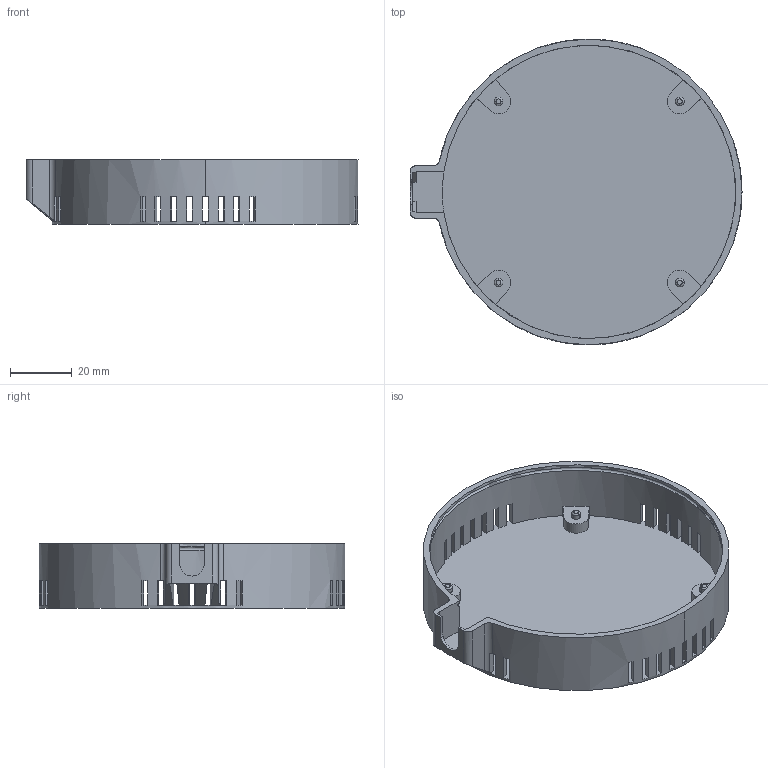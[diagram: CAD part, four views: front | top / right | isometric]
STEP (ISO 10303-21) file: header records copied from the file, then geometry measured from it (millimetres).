
FILE_DESCRIPTION((''),'2;1');
FILE_NAME('RBASE','2024-11-05T18:05:17',('qinghui.yi'),(''),'CREO PARAMETRIC BY PTC INC, 2019164','CREO PARAMETRIC BY PTC INC, 2019164','');
FILE_SCHEMA(('CONFIG_CONTROL_DESIGN','SHAPE_APPEARANCE_LAYERS_GROUPS'));
Length unit declared in the file: millimetre
Products named in the file (1): RBASE
Bounding box: 107.5 x 99 x 21 mm (x, y, z)
Volume: 20631.7 mm3; surface area: 29400.8 mm2
Topology: 1 solids, 1 shells, 153 faces, 561 edges, 379 vertices
Faces by surface type: plane 118, cylinder 22, torus 9, cone 4
Entity records: 6608 total; most frequent: CARTESIAN_POINT 1199, ORIENTED_EDGE 1122, DIRECTION 1060, EDGE_CURVE 561, VERTEX_POINT 379, AXIS2_PLACEMENT_3D 362, VECTOR 336, LINE 336
